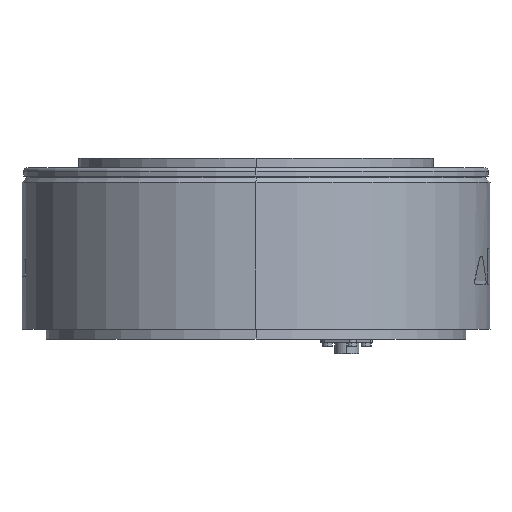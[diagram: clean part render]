
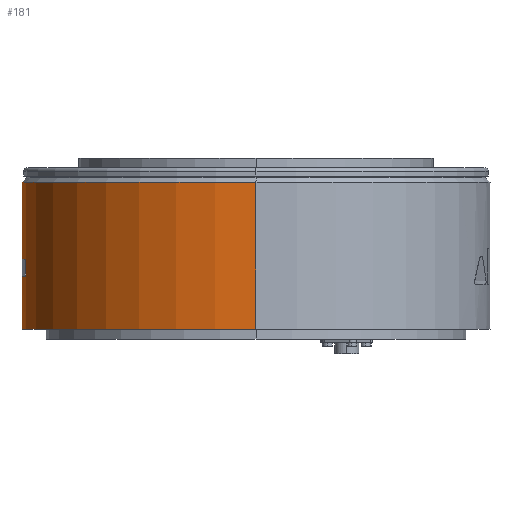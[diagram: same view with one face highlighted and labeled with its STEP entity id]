
A CAD part, left-side view. The second image highlights one B-rep face of the part: STEP entity #181.
In plain terms, the highlighted cylindrical face has radius 145 mm (diameter 290 mm), a partial arc.
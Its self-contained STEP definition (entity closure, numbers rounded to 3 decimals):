
#181 = ADVANCED_FACE ( 'NONE', ( #6725, #6733 ), #6727, .T. ) ;
#501 = CARTESIAN_POINT ( 'NONE',  ( 25., 142.829, 49.5 ) ) ;
#522 = CARTESIAN_POINT ( 'NONE',  ( -145., 0., 97. ) ) ;
#1073 = ORIENTED_EDGE ( 'NONE', *, *, #8843, .F. ) ;
#1074 = ORIENTED_EDGE ( 'NONE', *, *, #8840, .F. ) ;
#1075 = ORIENTED_EDGE ( 'NONE', *, *, #8851, .T. ) ;
#1077 = ORIENTED_EDGE ( 'NONE', *, *, #8847, .T. ) ;
#1084 = ORIENTED_EDGE ( 'NONE', *, *, #8842, .F. ) ;
#1086 = ORIENTED_EDGE ( 'NONE', *, *, #8853, .F. ) ;
#1090 = ORIENTED_EDGE ( 'NONE', *, *, #8844, .F. ) ;
#1092 = ORIENTED_EDGE ( 'NONE', *, *, #8845, .F. ) ;
#1286 = EDGE_LOOP ( 'NONE', ( #1077, #1075, #1074, #1073 ) ) ;
#1784 = CARTESIAN_POINT ( 'NONE',  ( -25., 142.829, 0. ) ) ;
#1793 = DIRECTION ( 'NONE',  ( -1., 0., 0. ) ) ;
#1794 = DIRECTION ( 'NONE',  ( 0., 0., 1. ) ) ;
#1808 = DIRECTION ( 'NONE',  ( 0., 0., -1. ) ) ;
#1810 = CARTESIAN_POINT ( 'NONE',  ( -145., 0., 0. ) ) ;
#1820 = DIRECTION ( 'NONE',  ( 1., 0., 0. ) ) ;
#1824 = DIRECTION ( 'NONE',  ( 0., 0., -1. ) ) ;
#1827 = CARTESIAN_POINT ( 'NONE',  ( 0., 0., 97. ) ) ;
#1834 = CARTESIAN_POINT ( 'NONE',  ( 0., 0., 39. ) ) ;
#1837 = DIRECTION ( 'NONE',  ( -1., 0., 0. ) ) ;
#1846 = DIRECTION ( 'NONE',  ( 0., 0., -1. ) ) ;
#1865 = DIRECTION ( 'NONE',  ( 0., 0., -1. ) ) ;
#1866 = CARTESIAN_POINT ( 'NONE',  ( 25., 142.829, 0. ) ) ;
#1869 = CARTESIAN_POINT ( 'NONE',  ( 0., 0., 49.5 ) ) ;
#1871 = DIRECTION ( 'NONE',  ( 0., 0., -1. ) ) ;
#1872 = CARTESIAN_POINT ( 'NONE',  ( 145., 0., 0. ) ) ;
#1881 = DIRECTION ( 'NONE',  ( -1., 0., 0. ) ) ;
#1882 = DIRECTION ( 'NONE',  ( 0., 0., -1. ) ) ;
#1885 = DIRECTION ( 'NONE',  ( 0., 0., 1. ) ) ;
#4379 = EDGE_LOOP ( 'NONE', ( #1092, #1090, #1086, #1084 ) ) ;
#4888 = AXIS2_PLACEMENT_3D ( 'NONE', #6698, #1846, #1837 ) ;
#4889 = AXIS2_PLACEMENT_3D ( 'NONE', #1869, #1824, #1820 ) ;
#4890 = AXIS2_PLACEMENT_3D ( 'NONE', #1827, #1882, #1881 ) ;
#4891 = AXIS2_PLACEMENT_3D ( 'NONE', #1834, #1794, #1793 ) ;
#5100 = LINE ( 'NONE', #1784, #5121 ) ;
#5116 = LINE ( 'NONE', #1810, #5119 ) ;
#5118 = CIRCLE ( 'NONE', #4888, 145. ) ;
#5119 = VECTOR ( 'NONE', #1808, 1000. ) ;
#5121 = VECTOR ( 'NONE', #1885, 1000. ) ;
#5122 = CIRCLE ( 'NONE', #4889, 145. ) ;
#5124 = CIRCLE ( 'NONE', #4891, 145. ) ;
#5129 = CIRCLE ( 'NONE', #4890, 145. ) ;
#5134 = LINE ( 'NONE', #1872, #5135 ) ;
#5135 = VECTOR ( 'NONE', #1871, 1000. ) ;
#5138 = LINE ( 'NONE', #1866, #5139 ) ;
#5139 = VECTOR ( 'NONE', #1865, 1000. ) ;
#6099 = CARTESIAN_POINT ( 'NONE',  ( 0., 0., 0. ) ) ;
#6101 = DIRECTION ( 'NONE',  ( 0., 0., -1. ) ) ;
#6103 = DIRECTION ( 'NONE',  ( -1., 0., 0. ) ) ;
#6289 = VERTEX_POINT ( 'NONE', #522 ) ;
#6304 = VERTEX_POINT ( 'NONE', #501 ) ;
#6338 = VERTEX_POINT ( 'NONE', #6555 ) ;
#6340 = VERTEX_POINT ( 'NONE', #6547 ) ;
#6343 = VERTEX_POINT ( 'NONE', #6529 ) ;
#6349 = VERTEX_POINT ( 'NONE', #6515 ) ;
#6354 = VERTEX_POINT ( 'NONE', #6497 ) ;
#6359 = VERTEX_POINT ( 'NONE', #6549 ) ;
#6497 = CARTESIAN_POINT ( 'NONE',  ( -145., 0., 6. ) ) ;
#6515 = CARTESIAN_POINT ( 'NONE',  ( 25., 142.829, 39. ) ) ;
#6529 = CARTESIAN_POINT ( 'NONE',  ( 145., 0., 6. ) ) ;
#6547 = CARTESIAN_POINT ( 'NONE',  ( 145., 0., 97. ) ) ;
#6549 = CARTESIAN_POINT ( 'NONE',  ( -25., 142.829, 49.5 ) ) ;
#6555 = CARTESIAN_POINT ( 'NONE',  ( -25., 142.829, 39. ) ) ;
#6698 = CARTESIAN_POINT ( 'NONE',  ( 0., 0., 6. ) ) ;
#6725 = FACE_BOUND ( 'NONE', #4379, .T. ) ;
#6727 = CYLINDRICAL_SURFACE ( 'NONE', #8806, 145. ) ;
#6733 = FACE_OUTER_BOUND ( 'NONE', #1286, .T. ) ;
#8806 = AXIS2_PLACEMENT_3D ( 'NONE', #6099, #6101, #6103 ) ;
#8840 = EDGE_CURVE ( 'NONE', #6354, #6343, #5118, .T. ) ;
#8842 = EDGE_CURVE ( 'NONE', #6359, #6304, #5122, .T. ) ;
#8843 = EDGE_CURVE ( 'NONE', #6289, #6354, #5116, .T. ) ;
#8844 = EDGE_CURVE ( 'NONE', #6349, #6338, #5124, .T. ) ;
#8845 = EDGE_CURVE ( 'NONE', #6338, #6359, #5100, .T. ) ;
#8847 = EDGE_CURVE ( 'NONE', #6289, #6340, #5129, .T. ) ;
#8851 = EDGE_CURVE ( 'NONE', #6340, #6343, #5134, .T. ) ;
#8853 = EDGE_CURVE ( 'NONE', #6304, #6349, #5138, .T. ) ;
